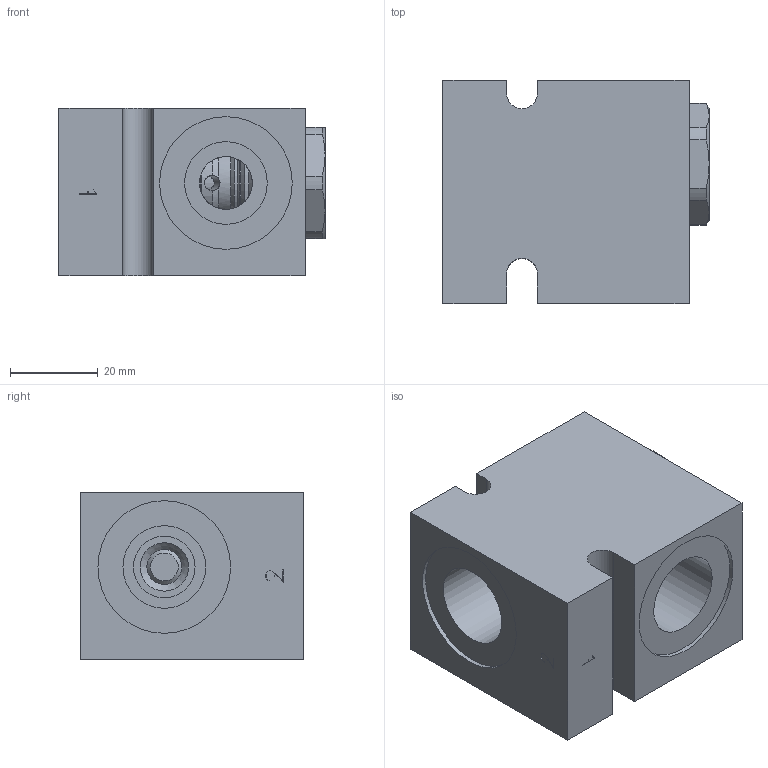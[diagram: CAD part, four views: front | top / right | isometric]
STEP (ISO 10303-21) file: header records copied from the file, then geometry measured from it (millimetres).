
FILE_DESCRIPTION( ( 'Unknown' ), '1' );
FILE_NAME( 'G:/Graphic Design/Graphic Design 2/Data Sheets/MANUAL_MECH OPERATED VALVES/4_STEP/Direct Acting Check Valves/D-HECVA00-C2.stp', 'Unknown', ( 'Unknown' ), ( 'Unknown' ), 'PSStep 16.0.42', 'Unknown', ' ' );
FILE_SCHEMA( ( 'AUTOMOTIVE_DESIGN { 1 0 10303 214 1 1 1 1 }' ) );
Length unit declared in the file: millimetre
Products named in the file (7): HECVA00; HECVA00-3D Full1; HECVA00-3D Full2; HECVA00-3D Full3; HECVA00-3D Full4; Assem1; B-DDEC2
Assembly tree (6 placements, depth 3):
  Assem1
    B-DDEC2
    HECVA00
      HECVA00-3D Full1
      HECVA00-3D Full2
      HECVA00-3D Full3
      HECVA00-3D Full4
Bounding box: 60.56 x 50.8 x 38.1 mm (x, y, z)
Surface area: 24542.3 mm2 (no closed solid volume)
Topology: 0 solids, 176 shells, 176 faces, 809 edges, 736 vertices
Faces by surface type: plane 79, cylinder 46, cone 44, torus 7
Full cylindrical faces by diameter (mm): 0.2 x2, 2.388 x1, 3.454 x6, 6.731 x1, 7.925 x1, 7.95 x1, 9.525 x1, 11.081 x1, 11.142 x1, 12 x1, 12.992 x1, 13.043 x1, 14 x1, 15.735 x1, 15.773 x3, 15.9 x1, 17.043 x1, 17.323 x2, 17.843 x1, 18.8 x4, 19.622 x1, 20.262 x2, 30.17 x2, 30.175 x1
Entity records: 10723 total; most frequent: CARTESIAN_POINT 3832, DIRECTION 1014, VERTEX_POINT 726, ORIENTED_EDGE 723, EDGE_CURVE 723, AXIS2_PLACEMENT_3D 426, B_SPLINE_CURVE_WITH_KNOTS 294, FACE_BOUND 275
